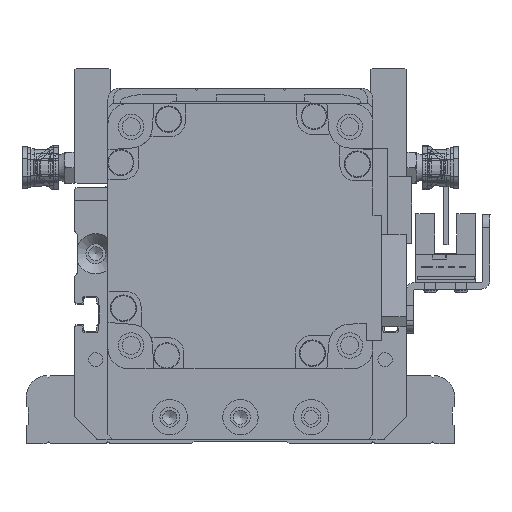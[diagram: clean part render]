
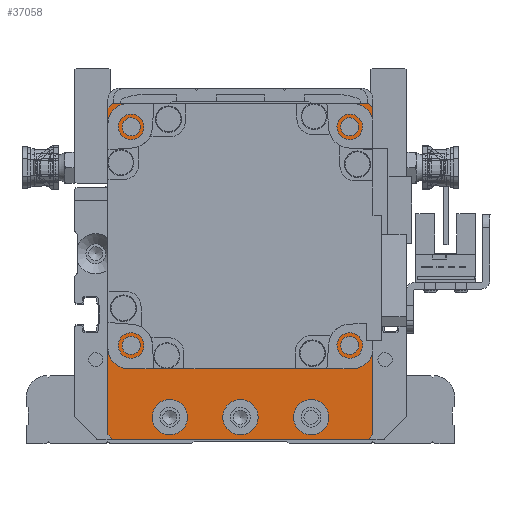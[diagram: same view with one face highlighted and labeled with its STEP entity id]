
A CAD part, front view. The second image highlights one B-rep face of the part: STEP entity #37058.
In plain terms, the highlighted planar face has unit normal (0, -1, 0) as drawn and (0, 0, 1) by its records, which use the part's own axes.
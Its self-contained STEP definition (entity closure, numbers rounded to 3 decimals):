
#2443=FACE_BOUND('',#6309,.T.);
#2444=FACE_BOUND('',#6310,.T.);
#2445=FACE_BOUND('',#6311,.T.);
#2446=FACE_BOUND('',#6312,.T.);
#2447=FACE_BOUND('',#6313,.T.);
#2448=FACE_BOUND('',#6314,.T.);
#2449=FACE_BOUND('',#6315,.T.);
#2450=FACE_BOUND('',#6316,.T.);
#4036=FACE_OUTER_BOUND('',#6308,.T.);
#6308=EDGE_LOOP('',(#32069,#32070,#32071,#32072,#32073,#32074,#32075,#32076));
#6309=EDGE_LOOP('',(#32077));
#6310=EDGE_LOOP('',(#32078));
#6311=EDGE_LOOP('',(#32079));
#6312=EDGE_LOOP('',(#32080));
#6313=EDGE_LOOP('',(#32081));
#6314=EDGE_LOOP('',(#32082));
#6315=EDGE_LOOP('',(#32083));
#6316=EDGE_LOOP('',(#32084));
#8410=CIRCLE('',#41329,25.);
#8411=CIRCLE('',#41330,2.067);
#8412=CIRCLE('',#41331,2.067);
#8413=CIRCLE('',#41332,2.067);
#8414=CIRCLE('',#41333,2.067);
#8415=CIRCLE('',#41334,4.);
#8416=CIRCLE('',#41335,4.);
#8417=CIRCLE('',#41336,4.);
#11044=LINE('',#64199,#13960);
#11046=LINE('',#64203,#13962);
#11049=LINE('',#64209,#13965);
#11050=LINE('',#64211,#13966);
#11051=LINE('',#64213,#13967);
#11052=LINE('',#64215,#13968);
#11053=LINE('',#64217,#13969);
#11054=LINE('',#64218,#13970);
#13960=VECTOR('',#50790,10.);
#13962=VECTOR('',#50794,10.);
#13965=VECTOR('',#50799,10.);
#13966=VECTOR('',#50800,10.);
#13967=VECTOR('',#50801,10.);
#13968=VECTOR('',#50802,10.);
#13969=VECTOR('',#50803,10.);
#13970=VECTOR('',#50804,10.);
#17536=VERTEX_POINT('',#64196);
#17537=VERTEX_POINT('',#64198);
#17538=VERTEX_POINT('',#64202);
#17540=VERTEX_POINT('',#64208);
#17541=VERTEX_POINT('',#64210);
#17542=VERTEX_POINT('',#64212);
#17543=VERTEX_POINT('',#64214);
#17544=VERTEX_POINT('',#64216);
#17545=VERTEX_POINT('',#64219);
#17546=VERTEX_POINT('',#64221);
#17547=VERTEX_POINT('',#64223);
#17548=VERTEX_POINT('',#64225);
#17549=VERTEX_POINT('',#64227);
#17550=VERTEX_POINT('',#64229);
#17551=VERTEX_POINT('',#64231);
#17552=VERTEX_POINT('',#64233);
#22522=EDGE_CURVE('',#17537,#17536,#11044,.T.);
#22524=EDGE_CURVE('',#17537,#17538,#11046,.T.);
#22527=EDGE_CURVE('',#17540,#17536,#11049,.T.);
#22528=EDGE_CURVE('',#17540,#17541,#11050,.T.);
#22529=EDGE_CURVE('',#17542,#17541,#11051,.T.);
#22530=EDGE_CURVE('',#17542,#17543,#11052,.T.);
#22531=EDGE_CURVE('',#17544,#17543,#11053,.T.);
#22532=EDGE_CURVE('',#17544,#17538,#11054,.T.);
#22533=EDGE_CURVE('',#17545,#17545,#8410,.T.);
#22534=EDGE_CURVE('',#17546,#17546,#8411,.T.);
#22535=EDGE_CURVE('',#17547,#17547,#8412,.T.);
#22536=EDGE_CURVE('',#17548,#17548,#8413,.T.);
#22537=EDGE_CURVE('',#17549,#17549,#8414,.T.);
#22538=EDGE_CURVE('',#17550,#17550,#8415,.T.);
#22539=EDGE_CURVE('',#17551,#17551,#8416,.T.);
#22540=EDGE_CURVE('',#17552,#17552,#8417,.T.);
#32069=ORIENTED_EDGE('',*,*,#22524,.F.);
#32070=ORIENTED_EDGE('',*,*,#22522,.T.);
#32071=ORIENTED_EDGE('',*,*,#22527,.F.);
#32072=ORIENTED_EDGE('',*,*,#22528,.T.);
#32073=ORIENTED_EDGE('',*,*,#22529,.F.);
#32074=ORIENTED_EDGE('',*,*,#22530,.T.);
#32075=ORIENTED_EDGE('',*,*,#22531,.F.);
#32076=ORIENTED_EDGE('',*,*,#22532,.T.);
#32077=ORIENTED_EDGE('',*,*,#22533,.T.);
#32078=ORIENTED_EDGE('',*,*,#22534,.T.);
#32079=ORIENTED_EDGE('',*,*,#22535,.T.);
#32080=ORIENTED_EDGE('',*,*,#22536,.T.);
#32081=ORIENTED_EDGE('',*,*,#22537,.T.);
#32082=ORIENTED_EDGE('',*,*,#22538,.T.);
#32083=ORIENTED_EDGE('',*,*,#22539,.T.);
#32084=ORIENTED_EDGE('',*,*,#22540,.T.);
#35389=PLANE('',#41328);
#37058=ADVANCED_FACE('',(#4036,#2443,#2444,#2445,#2446,#2447,#2448,#2449,
#2450),#35389,.T.);
#41328=AXIS2_PLACEMENT_3D('',#64207,#50797,#50798);
#41329=AXIS2_PLACEMENT_3D('',#64220,#50805,#50806);
#41330=AXIS2_PLACEMENT_3D('',#64222,#50807,#50808);
#41331=AXIS2_PLACEMENT_3D('',#64224,#50809,#50810);
#41332=AXIS2_PLACEMENT_3D('',#64226,#50811,#50812);
#41333=AXIS2_PLACEMENT_3D('',#64228,#50813,#50814);
#41334=AXIS2_PLACEMENT_3D('',#64230,#50815,#50816);
#41335=AXIS2_PLACEMENT_3D('',#64232,#50817,#50818);
#41336=AXIS2_PLACEMENT_3D('',#64234,#50819,#50820);
#50790=DIRECTION('',(1.,0.,0.));
#50794=DIRECTION('',(-0.707,0.707,0.));
#50797=DIRECTION('center_axis',(0.,0.,1.));
#50798=DIRECTION('ref_axis',(1.,0.,0.));
#50799=DIRECTION('',(-0.707,-0.707,0.));
#50800=DIRECTION('',(0.,1.,0.));
#50801=DIRECTION('',(0.707,-0.707,0.));
#50802=DIRECTION('',(-1.,0.,0.));
#50803=DIRECTION('',(0.707,0.707,0.));
#50804=DIRECTION('',(0.,-1.,0.));
#50805=DIRECTION('center_axis',(0.,0.,-1.));
#50806=DIRECTION('ref_axis',(1.,0.,0.));
#50807=DIRECTION('center_axis',(0.,0.,-1.));
#50808=DIRECTION('ref_axis',(1.,0.,0.));
#50809=DIRECTION('center_axis',(0.,0.,-1.));
#50810=DIRECTION('ref_axis',(1.,0.,0.));
#50811=DIRECTION('center_axis',(0.,0.,-1.));
#50812=DIRECTION('ref_axis',(1.,0.,0.));
#50813=DIRECTION('center_axis',(0.,0.,-1.));
#50814=DIRECTION('ref_axis',(1.,0.,0.));
#50815=DIRECTION('center_axis',(0.,0.,-1.));
#50816=DIRECTION('ref_axis',(1.,0.,0.));
#50817=DIRECTION('center_axis',(0.,0.,-1.));
#50818=DIRECTION('ref_axis',(1.,0.,0.));
#50819=DIRECTION('center_axis',(0.,0.,-1.));
#50820=DIRECTION('ref_axis',(1.,0.,0.));
#64196=CARTESIAN_POINT('',(29.,-38.,59.));
#64198=CARTESIAN_POINT('',(-29.,-38.,59.));
#64199=CARTESIAN_POINT('',(-30.,-38.,59.));
#64202=CARTESIAN_POINT('',(-30.,-37.,59.));
#64203=CARTESIAN_POINT('',(-31.5,-35.5,59.));
#64207=CARTESIAN_POINT('Origin',(0.,0.,
59.));
#64208=CARTESIAN_POINT('',(30.,-37.,59.));
#64209=CARTESIAN_POINT('',(31.5,-35.5,59.));
#64210=CARTESIAN_POINT('',(30.,37.,59.));
#64211=CARTESIAN_POINT('',(30.,-38.,59.));
#64212=CARTESIAN_POINT('',(29.,38.,59.));
#64213=CARTESIAN_POINT('',(31.5,35.5,59.));
#64214=CARTESIAN_POINT('',(-29.,38.,59.));
#64215=CARTESIAN_POINT('',(30.,38.,59.));
#64216=CARTESIAN_POINT('',(-30.,37.,59.));
#64217=CARTESIAN_POINT('',(-31.5,35.5,59.));
#64218=CARTESIAN_POINT('',(-30.,38.,59.));
#64219=CARTESIAN_POINT('',(-25.,8.,59.));
#64220=CARTESIAN_POINT('Origin',(0.,8.,59.));
#64221=CARTESIAN_POINT('',(22.682,-16.749,59.));
#64222=CARTESIAN_POINT('Origin',(24.749,-16.749,59.));
#64223=CARTESIAN_POINT('',(22.682,32.749,59.));
#64224=CARTESIAN_POINT('Origin',(24.749,32.749,59.));
#64225=CARTESIAN_POINT('',(-26.816,32.749,59.));
#64226=CARTESIAN_POINT('Origin',(-24.749,32.749,59.));
#64227=CARTESIAN_POINT('',(-26.816,-16.749,59.));
#64228=CARTESIAN_POINT('Origin',(-24.749,-16.749,59.));
#64229=CARTESIAN_POINT('',(12.,-33.,59.));
#64230=CARTESIAN_POINT('Origin',(16.,-33.,59.));
#64231=CARTESIAN_POINT('',(-4.,-33.,59.));
#64232=CARTESIAN_POINT('Origin',(0.,-33.,59.));
#64233=CARTESIAN_POINT('',(-20.,-33.,59.));
#64234=CARTESIAN_POINT('Origin',(-16.,-33.,59.));
